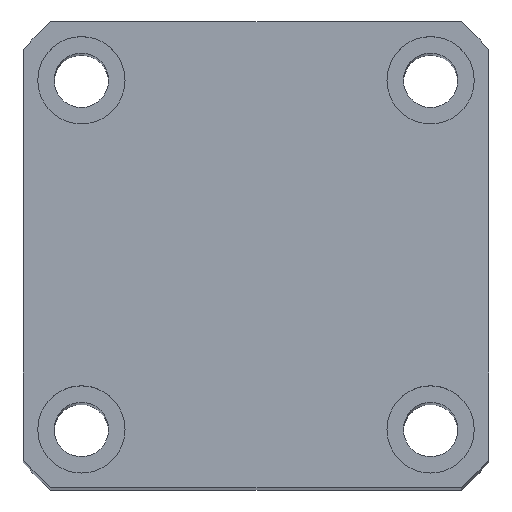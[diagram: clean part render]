
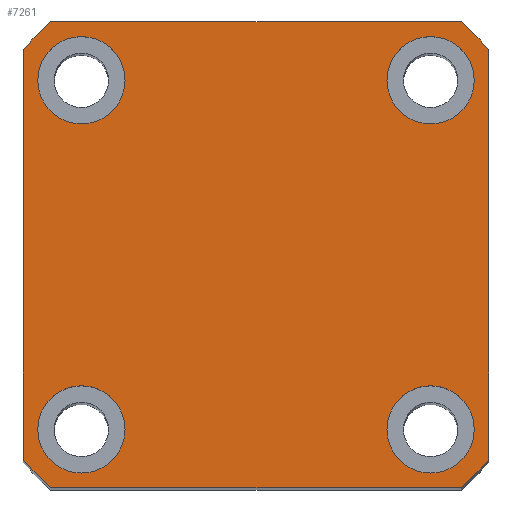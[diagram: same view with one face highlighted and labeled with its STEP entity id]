
A CAD part, top view. The second image highlights one B-rep face of the part: STEP entity #7261.
In plain terms, the highlighted planar face has unit normal (0, 0, 1) as drawn and (1, 0, 0) by its records, which use the part's own axes.
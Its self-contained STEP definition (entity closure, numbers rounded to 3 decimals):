
#135 = PLANE ( 'NONE',  #5293 ) ;
#150 = DIRECTION ( 'NONE',  ( 1., 0., 0. ) ) ;
#181 = EDGE_CURVE ( 'NONE', #2809, #6065, #1495, .T. ) ;
#234 = CARTESIAN_POINT ( 'NONE',  ( 140., 0., 0. ) ) ;
#337 = DIRECTION ( 'NONE',  ( 1., 0., 0. ) ) ;
#344 = EDGE_CURVE ( 'NONE', #6065, #3383, #1278, .T. ) ;
#358 = AXIS2_PLACEMENT_3D ( 'NONE', #4857, #1127, #5490 ) ;
#491 = AXIS2_PLACEMENT_3D ( 'NONE', #3836, #150, #4465 ) ;
#596 = LINE ( 'NONE', #5633, #7044 ) ;
#631 = EDGE_CURVE ( 'NONE', #3383, #4187, #6955, .T. ) ;
#634 = CARTESIAN_POINT ( 'NONE',  ( 140., -18., 18. ) ) ;
#766 = FACE_BOUND ( 'NONE', #6198, .T. ) ;
#802 = LINE ( 'NONE', #4350, #7237 ) ;
#806 = CARTESIAN_POINT ( 'NONE',  ( 140., -18., -22.5 ) ) ;
#858 = DIRECTION ( 'NONE',  ( 0., 0., -1. ) ) ;
#1127 = DIRECTION ( 'NONE',  ( 1., 0., 0. ) ) ;
#1152 = CIRCLE ( 'NONE', #491, 32. ) ;
#1192 = ORIENTED_EDGE ( 'NONE', *, *, #1958, .F. ) ;
#1220 = AXIS2_PLACEMENT_3D ( 'NONE', #6435, #2680, #7066 ) ;
#1248 = DIRECTION ( 'NONE',  ( 0., 0., -1. ) ) ;
#1278 = CIRCLE ( 'NONE', #5986, 32. ) ;
#1284 = VERTEX_POINT ( 'NONE', #1516 ) ;
#1317 = AXIS2_PLACEMENT_3D ( 'NONE', #234, #4558, #858 ) ;
#1364 = DIRECTION ( 'NONE',  ( 1., 0., 0. ) ) ;
#1453 = CIRCLE ( 'NONE', #5500, 4.5 ) ;
#1457 = CARTESIAN_POINT ( 'NONE',  ( 140., -24., 21.166 ) ) ;
#1495 = LINE ( 'NONE', #1820, #3122 ) ;
#1496 = DIRECTION ( 'NONE',  ( 1., 0., 0. ) ) ;
#1516 = CARTESIAN_POINT ( 'NONE',  ( 140., 18., 13.5 ) ) ;
#1540 = AXIS2_PLACEMENT_3D ( 'NONE', #4018, #337, #4664 ) ;
#1557 = DIRECTION ( 'NONE',  ( 0., -1., 0. ) ) ;
#1588 = ORIENTED_EDGE ( 'NONE', *, *, #1732, .T. ) ;
#1732 = EDGE_CURVE ( 'NONE', #7234, #2177, #802, .T. ) ;
#1820 = CARTESIAN_POINT ( 'NONE',  ( 140., -24., 24. ) ) ;
#1884 = CARTESIAN_POINT ( 'NONE',  ( 140., 18., 18. ) ) ;
#1946 = DIRECTION ( 'NONE',  ( 1., 0., 0. ) ) ;
#1958 = EDGE_CURVE ( 'NONE', #6539, #1284, #5171, .T. ) ;
#1976 = ORIENTED_EDGE ( 'NONE', *, *, #181, .T. ) ;
#1977 = CARTESIAN_POINT ( 'NONE',  ( 140., 24., 21.166 ) ) ;
#1980 = DIRECTION ( 'NONE',  ( 0., 0., -1. ) ) ;
#2026 = CIRCLE ( 'NONE', #2261, 4.5 ) ;
#2177 = VERTEX_POINT ( 'NONE', #5022 ) ;
#2180 = CARTESIAN_POINT ( 'NONE',  ( 140., -18., -13.5 ) ) ;
#2240 = VERTEX_POINT ( 'NONE', #806 ) ;
#2261 = AXIS2_PLACEMENT_3D ( 'NONE', #634, #4982, #1248 ) ;
#2386 = EDGE_CURVE ( 'NONE', #2240, #5057, #2729, .T. ) ;
#2400 = AXIS2_PLACEMENT_3D ( 'NONE', #2979, #2954, #2899 ) ;
#2405 = CIRCLE ( 'NONE', #1317, 32. ) ;
#2433 = ORIENTED_EDGE ( 'NONE', *, *, #631, .T. ) ;
#2500 = CIRCLE ( 'NONE', #358, 4.5 ) ;
#2594 = FACE_OUTER_BOUND ( 'NONE', #3825, .T. ) ;
#2601 = DIRECTION ( 'NONE',  ( 1., 0., 0. ) ) ;
#2680 = DIRECTION ( 'NONE',  ( 1., 0., 0. ) ) ;
#2707 = CARTESIAN_POINT ( 'NONE',  ( 140., 18., 18. ) ) ;
#2729 = CIRCLE ( 'NONE', #2400, 4.5 ) ;
#2809 = VERTEX_POINT ( 'NONE', #1457 ) ;
#2815 = EDGE_CURVE ( 'NONE', #1284, #6539, #5066, .T. ) ;
#2863 = DIRECTION ( 'NONE',  ( 1., 0., 0. ) ) ;
#2899 = DIRECTION ( 'NONE',  ( 0., 0., -1. ) ) ;
#2918 = ORIENTED_EDGE ( 'NONE', *, *, #344, .T. ) ;
#2954 = DIRECTION ( 'NONE',  ( 1., 0., 0. ) ) ;
#2979 = CARTESIAN_POINT ( 'NONE',  ( 140., -18., -18. ) ) ;
#3122 = VECTOR ( 'NONE', #5227, 1000. ) ;
#3195 = CARTESIAN_POINT ( 'NONE',  ( 140., -18., 22.5 ) ) ;
#3238 = VERTEX_POINT ( 'NONE', #6918 ) ;
#3295 = DIRECTION ( 'NONE',  ( 0., 0., -1. ) ) ;
#3383 = VERTEX_POINT ( 'NONE', #7683 ) ;
#3428 = ORIENTED_EDGE ( 'NONE', *, *, #5588, .T. ) ;
#3448 = AXIS2_PLACEMENT_3D ( 'NONE', #5217, #1496, #5850 ) ;
#3584 = CIRCLE ( 'NONE', #3448, 32. ) ;
#3803 = ORIENTED_EDGE ( 'NONE', *, *, #5482, .T. ) ;
#3825 = EDGE_LOOP ( 'NONE', ( #2433, #5687, #6183, #3428, #1588, #3803, #1976, #2918 ) ) ;
#3836 = CARTESIAN_POINT ( 'NONE',  ( 140., 0., 0. ) ) ;
#4018 = CARTESIAN_POINT ( 'NONE',  ( 140., 18., -18. ) ) ;
#4153 = EDGE_CURVE ( 'NONE', #3238, #7907, #596, .T. ) ;
#4187 = VERTEX_POINT ( 'NONE', #5026 ) ;
#4222 = FACE_BOUND ( 'NONE', #7328, .T. ) ;
#4261 = VERTEX_POINT ( 'NONE', #5386 ) ;
#4320 = DIRECTION ( 'NONE',  ( 0., 0., -1. ) ) ;
#4350 = CARTESIAN_POINT ( 'NONE',  ( 140., 24., 24. ) ) ;
#4375 = DIRECTION ( 'NONE',  ( 1., 0., 0. ) ) ;
#4390 = CARTESIAN_POINT ( 'NONE',  ( 140., 0., 0. ) ) ;
#4465 = DIRECTION ( 'NONE',  ( 0., 0., -1. ) ) ;
#4558 = DIRECTION ( 'NONE',  ( 1., 0., 0. ) ) ;
#4647 = EDGE_CURVE ( 'NONE', #4187, #3238, #3584, .T. ) ;
#4664 = DIRECTION ( 'NONE',  ( 0., 0., -1. ) ) ;
#4700 = ORIENTED_EDGE ( 'NONE', *, *, #2815, .F. ) ;
#4857 = CARTESIAN_POINT ( 'NONE',  ( 140., 18., -18. ) ) ;
#4900 = ORIENTED_EDGE ( 'NONE', *, *, #6455, .F. ) ;
#4982 = DIRECTION ( 'NONE',  ( 1., 0., 0. ) ) ;
#5022 = CARTESIAN_POINT ( 'NONE',  ( 140., -21.166, 24. ) ) ;
#5026 = CARTESIAN_POINT ( 'NONE',  ( 140., 21.166, -24. ) ) ;
#5034 = CARTESIAN_POINT ( 'NONE',  ( 140., 18., 22.5 ) ) ;
#5037 = CARTESIAN_POINT ( 'NONE',  ( 140., 21.166, 24. ) ) ;
#5057 = VERTEX_POINT ( 'NONE', #2180 ) ;
#5066 = CIRCLE ( 'NONE', #7447, 4.5 ) ;
#5097 = CARTESIAN_POINT ( 'NONE',  ( 140., 0., 0. ) ) ;
#5153 = ORIENTED_EDGE ( 'NONE', *, *, #5756, .F. ) ;
#5171 = CIRCLE ( 'NONE', #8014, 4.5 ) ;
#5198 = ORIENTED_EDGE ( 'NONE', *, *, #5915, .F. ) ;
#5217 = CARTESIAN_POINT ( 'NONE',  ( 140., 0., 0. ) ) ;
#5227 = DIRECTION ( 'NONE',  ( 0., 0., -1. ) ) ;
#5277 = VECTOR ( 'NONE', #6467, 1000. ) ;
#5293 = AXIS2_PLACEMENT_3D ( 'NONE', #5097, #1364, #5735 ) ;
#5350 = VERTEX_POINT ( 'NONE', #6829 ) ;
#5386 = CARTESIAN_POINT ( 'NONE',  ( 140., -18., 13.5 ) ) ;
#5482 = EDGE_CURVE ( 'NONE', #2177, #2809, #1152, .T. ) ;
#5490 = DIRECTION ( 'NONE',  ( 0., 0., -1. ) ) ;
#5500 = AXIS2_PLACEMENT_3D ( 'NONE', #6624, #2863, #7254 ) ;
#5510 = ORIENTED_EDGE ( 'NONE', *, *, #2386, .F. ) ;
#5588 = EDGE_CURVE ( 'NONE', #7907, #7234, #2405, .T. ) ;
#5633 = CARTESIAN_POINT ( 'NONE',  ( 140., 24., 24. ) ) ;
#5687 = ORIENTED_EDGE ( 'NONE', *, *, #4647, .T. ) ;
#5706 = ORIENTED_EDGE ( 'NONE', *, *, #7990, .F. ) ;
#5735 = DIRECTION ( 'NONE',  ( 0., 0., -1. ) ) ;
#5756 = EDGE_CURVE ( 'NONE', #4261, #6572, #1453, .T. ) ;
#5850 = DIRECTION ( 'NONE',  ( 0., 0., -1. ) ) ;
#5915 = EDGE_CURVE ( 'NONE', #7921, #5350, #2500, .T. ) ;
#5986 = AXIS2_PLACEMENT_3D ( 'NONE', #4390, #4375, #4320 ) ;
#6006 = EDGE_LOOP ( 'NONE', ( #5510, #5706 ) ) ;
#6065 = VERTEX_POINT ( 'NONE', #6227 ) ;
#6122 = CIRCLE ( 'NONE', #1540, 4.5 ) ;
#6183 = ORIENTED_EDGE ( 'NONE', *, *, #4153, .T. ) ;
#6198 = EDGE_LOOP ( 'NONE', ( #5153, #4900 ) ) ;
#6227 = CARTESIAN_POINT ( 'NONE',  ( 140., -24., -21.166 ) ) ;
#6351 = CARTESIAN_POINT ( 'NONE',  ( 140., 18., -22.5 ) ) ;
#6435 = CARTESIAN_POINT ( 'NONE',  ( 140., -18., -18. ) ) ;
#6455 = EDGE_CURVE ( 'NONE', #6572, #4261, #2026, .T. ) ;
#6467 = DIRECTION ( 'NONE',  ( 0., 1., 0. ) ) ;
#6539 = VERTEX_POINT ( 'NONE', #5034 ) ;
#6554 = CARTESIAN_POINT ( 'NONE',  ( 140., 24., -24. ) ) ;
#6572 = VERTEX_POINT ( 'NONE', #3195 ) ;
#6624 = CARTESIAN_POINT ( 'NONE',  ( 140., -18., 18. ) ) ;
#6655 = EDGE_LOOP ( 'NONE', ( #4700, #1192 ) ) ;
#6829 = CARTESIAN_POINT ( 'NONE',  ( 140., 18., -13.5 ) ) ;
#6918 = CARTESIAN_POINT ( 'NONE',  ( 140., 24., -21.166 ) ) ;
#6955 = LINE ( 'NONE', #6554, #5277 ) ;
#7044 = VECTOR ( 'NONE', #7522, 1000. ) ;
#7066 = DIRECTION ( 'NONE',  ( 0., 0., -1. ) ) ;
#7184 = EDGE_CURVE ( 'NONE', #5350, #7921, #6122, .T. ) ;
#7208 = FACE_BOUND ( 'NONE', #6006, .T. ) ;
#7234 = VERTEX_POINT ( 'NONE', #5037 ) ;
#7237 = VECTOR ( 'NONE', #1557, 1000. ) ;
#7254 = DIRECTION ( 'NONE',  ( 0., 0., -1. ) ) ;
#7261 = ADVANCED_FACE ( 'NONE', ( #7208, #766, #4222, #7391, #2594 ), #135, .T. ) ;
#7262 = ORIENTED_EDGE ( 'NONE', *, *, #7184, .F. ) ;
#7328 = EDGE_LOOP ( 'NONE', ( #5198, #7262 ) ) ;
#7391 = FACE_BOUND ( 'NONE', #6655, .T. ) ;
#7447 = AXIS2_PLACEMENT_3D ( 'NONE', #1884, #1946, #1980 ) ;
#7522 = DIRECTION ( 'NONE',  ( 0., 0., 1. ) ) ;
#7587 = CIRCLE ( 'NONE', #1220, 4.5 ) ;
#7683 = CARTESIAN_POINT ( 'NONE',  ( 140., -21.166, -24. ) ) ;
#7907 = VERTEX_POINT ( 'NONE', #1977 ) ;
#7921 = VERTEX_POINT ( 'NONE', #6351 ) ;
#7990 = EDGE_CURVE ( 'NONE', #5057, #2240, #7587, .T. ) ;
#8014 = AXIS2_PLACEMENT_3D ( 'NONE', #2707, #2601, #3295 ) ;
